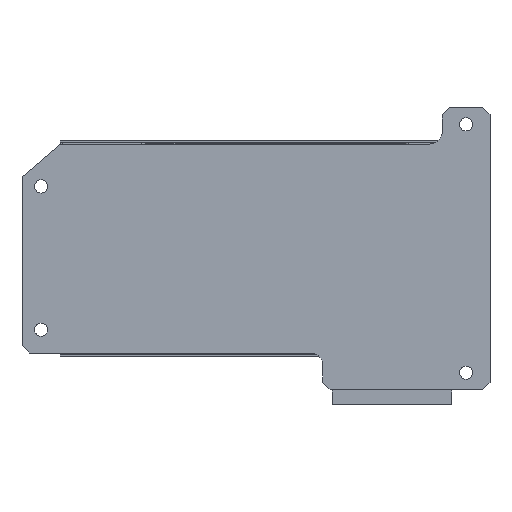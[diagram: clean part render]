
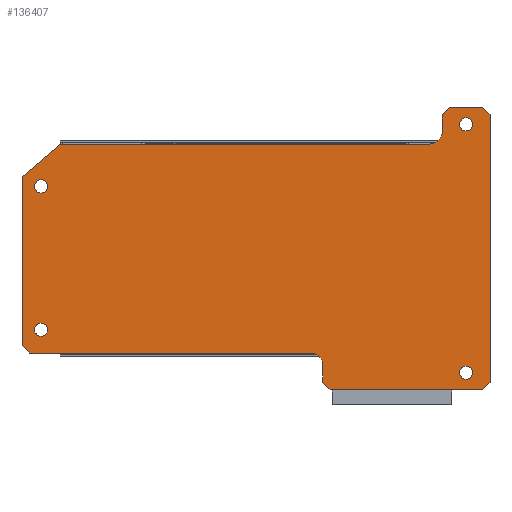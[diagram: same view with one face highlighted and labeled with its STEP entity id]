
A CAD part, front view. The second image highlights one B-rep face of the part: STEP entity #136407.
In plain terms, the highlighted planar face has unit normal (0, -1, 0) as drawn and (0, 0, -1) by its records, which use the part's own axes.
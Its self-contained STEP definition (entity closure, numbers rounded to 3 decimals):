
#135132=CARTESIAN_POINT('',(88.,52.,0.));
#135133=DIRECTION('',(0.,0.,1.));
#135134=DIRECTION('',(1.,0.,0.));
#135135=AXIS2_PLACEMENT_3D('',#135132,#135133,#135134);
#135137=CARTESIAN_POINT('',(88.,52.,0.));
#135138=DIRECTION('',(0.,0.,1.));
#135139=DIRECTION('',(-1.,0.,0.));
#135140=AXIS2_PLACEMENT_3D('',#135137,#135138,#135139);
#135142=CARTESIAN_POINT('',(88.,-52.,0.));
#135143=DIRECTION('',(0.,0.,1.));
#135144=DIRECTION('',(1.,0.,0.));
#135145=AXIS2_PLACEMENT_3D('',#135142,#135143,#135144);
#135147=CARTESIAN_POINT('',(88.,-52.,0.));
#135148=DIRECTION('',(0.,0.,1.));
#135149=DIRECTION('',(-1.,0.,0.));
#135150=AXIS2_PLACEMENT_3D('',#135147,#135148,#135149);
#135152=CARTESIAN_POINT('',(-90.,34.,0.));
#135153=DIRECTION('',(0.,0.,1.));
#135154=DIRECTION('',(1.,0.,0.));
#135155=AXIS2_PLACEMENT_3D('',#135152,#135153,#135154);
#135157=CARTESIAN_POINT('',(-90.,34.,0.));
#135158=DIRECTION('',(0.,0.,1.));
#135159=DIRECTION('',(-1.,0.,0.));
#135160=AXIS2_PLACEMENT_3D('',#135157,#135158,#135159);
#135162=CARTESIAN_POINT('',(-90.,-26.,0.));
#135163=DIRECTION('',(0.,0.,1.));
#135164=DIRECTION('',(1.,0.,0.));
#135165=AXIS2_PLACEMENT_3D('',#135162,#135163,#135164);
#135167=CARTESIAN_POINT('',(-90.,-26.,0.));
#135168=DIRECTION('',(0.,0.,1.));
#135169=DIRECTION('',(-1.,0.,0.));
#135170=AXIS2_PLACEMENT_3D('',#135167,#135168,#135169);
#135172=DIRECTION('',(0.,-1.,0.));
#135173=VECTOR('',#135172,7.);
#135174=CARTESIAN_POINT('',(28.,56.,0.));
#135175=LINE('',#135174,#135173);
#135176=DIRECTION('',(-1.,0.,0.));
#135177=VECTOR('',#135176,117.75);
#135178=CARTESIAN_POINT('',(22.75,43.75,0.));
#135179=LINE('',#135178,#135177);
#135180=DIRECTION('',(0.707,0.707,0.));
#135181=VECTOR('',#135180,4.243);
#135182=CARTESIAN_POINT('',(-98.,40.75,0.));
#135183=LINE('',#135182,#135181);
#135184=DIRECTION('',(0.,-1.,0.));
#135185=VECTOR('',#135184,70.806);
#135186=CARTESIAN_POINT('',(-98.,40.75,0.));
#135187=LINE('',#135186,#135185);
#135188=DIRECTION('',(0.76,-0.65,0.));
#135189=VECTOR('',#135188,21.06);
#135190=CARTESIAN_POINT('',(-98.,-30.056,0.));
#135191=LINE('',#135190,#135189);
#135192=DIRECTION('',(1.,0.,0.));
#135193=VECTOR('',#135192,154.75);
#135194=CARTESIAN_POINT('',(-82.,-43.75,0.));
#135195=LINE('',#135194,#135193);
#135196=DIRECTION('',(0.,-1.,0.));
#135197=VECTOR('',#135196,7.);
#135198=CARTESIAN_POINT('',(78.,-49.,0.));
#135199=LINE('',#135198,#135197);
#135200=DIRECTION('',(-0.707,0.707,0.));
#135201=VECTOR('',#135200,4.243);
#135202=CARTESIAN_POINT('',(81.,-59.,0.));
#135203=LINE('',#135202,#135201);
#135204=DIRECTION('',(1.,0.,0.));
#135205=VECTOR('',#135204,14.);
#135206=CARTESIAN_POINT('',(81.,-59.,0.));
#135207=LINE('',#135206,#135205);
#135208=DIRECTION('',(-0.707,-0.707,0.));
#135209=VECTOR('',#135208,4.243);
#135210=CARTESIAN_POINT('',(98.,-56.,0.));
#135211=LINE('',#135210,#135209);
#135212=DIRECTION('',(0.,1.,0.));
#135213=VECTOR('',#135212,112.);
#135214=CARTESIAN_POINT('',(98.,-56.,0.));
#135215=LINE('',#135214,#135213);
#135216=DIRECTION('',(0.707,-0.707,0.));
#135217=VECTOR('',#135216,4.243);
#135218=CARTESIAN_POINT('',(95.,59.,0.));
#135219=LINE('',#135218,#135217);
#135220=DIRECTION('',(-1.,0.,0.));
#135221=VECTOR('',#135220,64.);
#135222=CARTESIAN_POINT('',(95.,59.,0.));
#135223=LINE('',#135222,#135221);
#135224=DIRECTION('',(0.707,0.707,0.));
#135225=VECTOR('',#135224,4.243);
#135226=CARTESIAN_POINT('',(28.,56.,0.));
#135227=LINE('',#135226,#135225);
#135849=CARTESIAN_POINT('',(22.75,49.,0.));
#135850=DIRECTION('',(0.,0.,1.));
#135851=DIRECTION('',(0.,-1.,0.));
#135852=AXIS2_PLACEMENT_3D('',#135849,#135850,#135851);
#135899=CARTESIAN_POINT('',(72.75,-49.,0.));
#135900=DIRECTION('',(0.,0.,1.));
#135901=DIRECTION('',(1.,0.,0.));
#135902=AXIS2_PLACEMENT_3D('',#135899,#135900,#135901);
#136072=CARTESIAN_POINT('',(90.75,52.,0.));
#136073=CARTESIAN_POINT('',(85.25,52.,0.));
#136074=VERTEX_POINT('',#136072);
#136075=VERTEX_POINT('',#136073);
#136076=CARTESIAN_POINT('',(90.75,-52.,0.));
#136077=CARTESIAN_POINT('',(85.25,-52.,0.));
#136078=VERTEX_POINT('',#136076);
#136079=VERTEX_POINT('',#136077);
#136080=CARTESIAN_POINT('',(-87.25,34.,0.));
#136081=CARTESIAN_POINT('',(-92.75,34.,0.));
#136082=VERTEX_POINT('',#136080);
#136083=VERTEX_POINT('',#136081);
#136084=CARTESIAN_POINT('',(-87.25,-26.,0.));
#136085=CARTESIAN_POINT('',(-92.75,-26.,0.));
#136086=VERTEX_POINT('',#136084);
#136087=VERTEX_POINT('',#136085);
#136208=CARTESIAN_POINT('',(-98.,40.75,0.));
#136209=CARTESIAN_POINT('',(-95.,43.75,0.));
#136210=VERTEX_POINT('',#136208);
#136211=VERTEX_POINT('',#136209);
#136216=CARTESIAN_POINT('',(-98.,-30.056,0.));
#136217=VERTEX_POINT('',#136216);
#136220=CARTESIAN_POINT('',(28.,56.,0.));
#136221=CARTESIAN_POINT('',(31.,59.,0.));
#136222=VERTEX_POINT('',#136220);
#136223=VERTEX_POINT('',#136221);
#136228=CARTESIAN_POINT('',(95.,59.,0.));
#136229=CARTESIAN_POINT('',(98.,56.,0.));
#136230=VERTEX_POINT('',#136228);
#136231=VERTEX_POINT('',#136229);
#136236=CARTESIAN_POINT('',(98.,-56.,0.));
#136237=CARTESIAN_POINT('',(95.,-59.,0.));
#136238=VERTEX_POINT('',#136236);
#136239=VERTEX_POINT('',#136237);
#136244=CARTESIAN_POINT('',(81.,-59.,0.));
#136245=CARTESIAN_POINT('',(78.,-56.,0.));
#136246=VERTEX_POINT('',#136244);
#136247=VERTEX_POINT('',#136245);
#136324=CARTESIAN_POINT('',(78.,-49.,0.));
#136326=VERTEX_POINT('',#136324);
#136328=CARTESIAN_POINT('',(72.75,-43.75,0.));
#136330=VERTEX_POINT('',#136328);
#136332=CARTESIAN_POINT('',(22.75,43.75,0.));
#136334=VERTEX_POINT('',#136332);
#136336=CARTESIAN_POINT('',(28.,49.,0.));
#136338=VERTEX_POINT('',#136336);
#136340=CARTESIAN_POINT('',(-82.,-43.75,0.));
#136341=VERTEX_POINT('',#136340);
#136344=CARTESIAN_POINT('',(0.,0.,0.));
#136345=DIRECTION('',(0.,0.,1.));
#136346=DIRECTION('',(1.,0.,0.));
#136347=AXIS2_PLACEMENT_3D('',#136344,#136345,#136346);
#136348=PLANE('',#136347);
#136350=ORIENTED_EDGE('',*,*,#136349,.T.);
#136352=ORIENTED_EDGE('',*,*,#136351,.F.);
#136354=ORIENTED_EDGE('',*,*,#136353,.T.);
#136356=ORIENTED_EDGE('',*,*,#136355,.F.);
#136358=ORIENTED_EDGE('',*,*,#136357,.T.);
#136360=ORIENTED_EDGE('',*,*,#136359,.T.);
#136362=ORIENTED_EDGE('',*,*,#136361,.T.);
#136364=ORIENTED_EDGE('',*,*,#136363,.F.);
#136366=ORIENTED_EDGE('',*,*,#136365,.T.);
#136368=ORIENTED_EDGE('',*,*,#136367,.F.);
#136370=ORIENTED_EDGE('',*,*,#136369,.T.);
#136372=ORIENTED_EDGE('',*,*,#136371,.F.);
#136374=ORIENTED_EDGE('',*,*,#136373,.T.);
#136376=ORIENTED_EDGE('',*,*,#136375,.F.);
#136378=ORIENTED_EDGE('',*,*,#136377,.T.);
#136380=ORIENTED_EDGE('',*,*,#136379,.F.);
#136381=EDGE_LOOP('',(#136350,#136352,#136354,#136356,#136358,#136360,#136362,
#136364,#136366,#136368,#136370,#136372,#136374,#136376,#136378,#136380));
#136382=FACE_OUTER_BOUND('',#136381,.F.);
#136384=ORIENTED_EDGE('',*,*,#136383,.F.);
#136386=ORIENTED_EDGE('',*,*,#136385,.F.);
#136387=EDGE_LOOP('',(#136384,#136386));
#136388=FACE_BOUND('',#136387,.F.);
#136390=ORIENTED_EDGE('',*,*,#136389,.F.);
#136392=ORIENTED_EDGE('',*,*,#136391,.F.);
#136393=EDGE_LOOP('',(#136390,#136392));
#136394=FACE_BOUND('',#136393,.F.);
#136396=ORIENTED_EDGE('',*,*,#136395,.F.);
#136398=ORIENTED_EDGE('',*,*,#136397,.F.);
#136399=EDGE_LOOP('',(#136396,#136398));
#136400=FACE_BOUND('',#136399,.F.);
#136402=ORIENTED_EDGE('',*,*,#136401,.F.);
#136404=ORIENTED_EDGE('',*,*,#136403,.F.);
#136405=EDGE_LOOP('',(#136402,#136404));
#136406=FACE_BOUND('',#136405,.F.);
#136407=ADVANCED_FACE('',(#136382,#136388,#136394,#136400,#136406),#136348,.F.);
#135136=CIRCLE('',#135135,2.75);
#135141=CIRCLE('',#135140,2.75);
#135146=CIRCLE('',#135145,2.75);
#135151=CIRCLE('',#135150,2.75);
#135156=CIRCLE('',#135155,2.75);
#135161=CIRCLE('',#135160,2.75);
#135166=CIRCLE('',#135165,2.75);
#135171=CIRCLE('',#135170,2.75);
#135853=CIRCLE('',#135852,5.25);
#135903=CIRCLE('',#135902,5.25);
#136349=EDGE_CURVE('',#136222,#136338,#135175,.T.);
#136351=EDGE_CURVE('',#136334,#136338,#135853,.T.);
#136353=EDGE_CURVE('',#136334,#136211,#135179,.T.);
#136355=EDGE_CURVE('',#136210,#136211,#135183,.T.);
#136357=EDGE_CURVE('',#136210,#136217,#135187,.T.);
#136359=EDGE_CURVE('',#136217,#136341,#135191,.T.);
#136361=EDGE_CURVE('',#136341,#136330,#135195,.T.);
#136363=EDGE_CURVE('',#136326,#136330,#135903,.T.);
#136365=EDGE_CURVE('',#136326,#136247,#135199,.T.);
#136367=EDGE_CURVE('',#136246,#136247,#135203,.T.);
#136369=EDGE_CURVE('',#136246,#136239,#135207,.T.);
#136371=EDGE_CURVE('',#136238,#136239,#135211,.T.);
#136373=EDGE_CURVE('',#136238,#136231,#135215,.T.);
#136375=EDGE_CURVE('',#136230,#136231,#135219,.T.);
#136377=EDGE_CURVE('',#136230,#136223,#135223,.T.);
#136379=EDGE_CURVE('',#136222,#136223,#135227,.T.);
#136383=EDGE_CURVE('',#136078,#136079,#135146,.T.);
#136385=EDGE_CURVE('',#136079,#136078,#135151,.T.);
#136389=EDGE_CURVE('',#136082,#136083,#135156,.T.);
#136391=EDGE_CURVE('',#136083,#136082,#135161,.T.);
#136395=EDGE_CURVE('',#136086,#136087,#135166,.T.);
#136397=EDGE_CURVE('',#136087,#136086,#135171,.T.);
#136401=EDGE_CURVE('',#136074,#136075,#135136,.T.);
#136403=EDGE_CURVE('',#136075,#136074,#135141,.T.);
